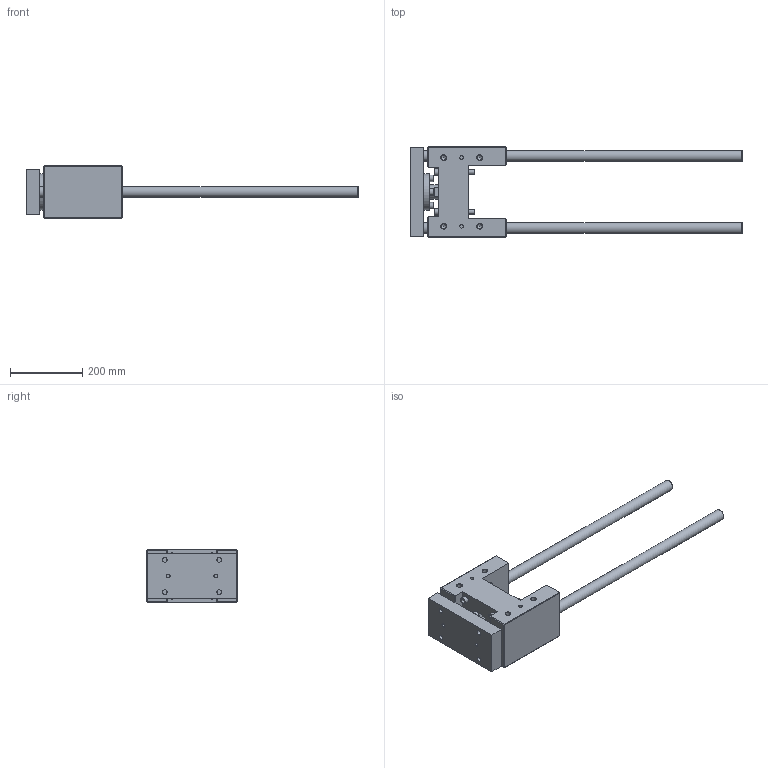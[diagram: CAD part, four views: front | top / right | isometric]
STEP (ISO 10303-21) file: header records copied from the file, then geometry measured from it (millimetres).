
FILE_DESCRIPTION( ( 'STEP AP214' ), '1' );
FILE_NAME( 'U:/Etudes/Top Solid/BIBLIO 3D AVM/TOP/PNEUMATIQUE/GUIDAGES/Type 32 (en H)/R_Renforcée/320R9_30.step', '2005-05-27T08:42:54', ( ' ' ), ( ' ' ), 'XStep 1.0', ' ', ' ' );
FILE_SCHEMA( ( 'automotive_design' ) );
Length unit declared in the file: metre
Products named in the file (2): 1; 2
Bounding box: 920 x 252 x 148 mm (x, y, z)
Volume: 7194075.4 mm3; surface area: 630229.5 mm2
Topology: 2 solids, 7 shells, 238 faces, 524 edges, 339 vertices
Faces by surface type: plane 149, cylinder 68, cone 21
Full cylindrical faces by diameter (mm): 10 x4, 10.106 x4, 12 x16, 13 x12, 13.835 x8, 18 x8, 20 x4, 24.835 x1, 30 x4, 39 x1, 42 x1, 57 x1, 60 x2, 65 x1, 100 x1
Entity records: 7905 total; most frequent: CARTESIAN_POINT 1198, DIRECTION 996, ORIENTED_EDGE 784, EDGE_CURVE 392, EDGE_LOOP 390, AXIS2_PLACEMENT_3D 372, FACE_OUTER_BOUND 306, VERTEX_POINT 302
